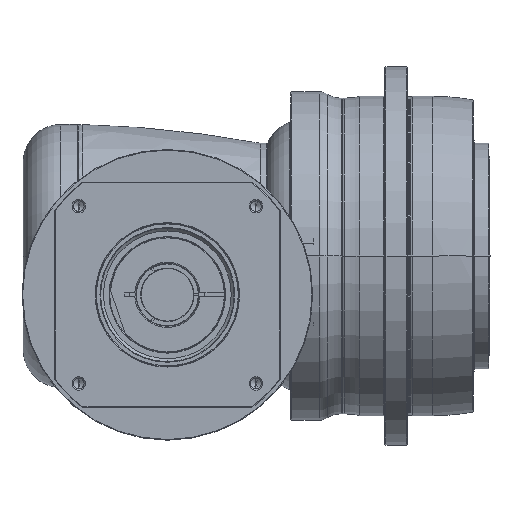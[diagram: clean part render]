
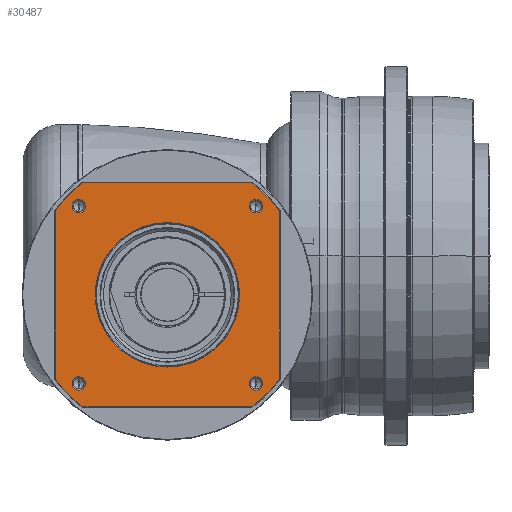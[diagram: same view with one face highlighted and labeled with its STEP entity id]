
A CAD part, front view. The second image highlights one B-rep face of the part: STEP entity #30487.
In plain terms, the highlighted planar face has unit normal (0, -1, 0) as drawn and (0, 0, 1) by its records, which use the part's own axes.
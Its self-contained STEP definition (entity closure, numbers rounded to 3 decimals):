
#29220=DIRECTION('',(1.,0.,0.));
#29221=VECTOR('',#29220,134.666);
#29222=CARTESIAN_POINT('',(-67.333,-89.5,41.));
#29223=LINE('',#29222,#29221);
#29233=CARTESIAN_POINT('',(0.,0.,
41.));
#29234=DIRECTION('',(0.,0.,-1.));
#29235=DIRECTION('',(0.,-1.,0.));
#29236=AXIS2_PLACEMENT_3D('',#29233,#29234,#29235);
#29238=CARTESIAN_POINT('',(0.,0.,
41.));
#29239=DIRECTION('',(0.,0.,-1.));
#29240=DIRECTION('',(0.,1.,0.));
#29241=AXIS2_PLACEMENT_3D('',#29238,#29239,#29240);
#29243=CARTESIAN_POINT('',(0.,0.,41.));
#29244=DIRECTION('',(0.,0.,1.));
#29245=DIRECTION('',(-0.799,-0.601,0.));
#29246=AXIS2_PLACEMENT_3D('',#29243,#29244,#29245);
#29258=DIRECTION('',(0.,-1.,0.));
#29259=VECTOR('',#29258,134.666);
#29260=CARTESIAN_POINT('',(-89.5,67.333,41.));
#29261=LINE('',#29260,#29259);
#29271=CARTESIAN_POINT('',(0.,0.,41.));
#29272=DIRECTION('',(0.,0.,1.));
#29273=DIRECTION('',(-0.601,0.799,0.));
#29274=AXIS2_PLACEMENT_3D('',#29271,#29272,#29273);
#29299=DIRECTION('',(-1.,0.,0.));
#29300=VECTOR('',#29299,134.666);
#29301=CARTESIAN_POINT('',(67.333,89.5,41.));
#29302=LINE('',#29301,#29300);
#29307=CARTESIAN_POINT('',(0.,0.,41.));
#29308=DIRECTION('',(0.,0.,1.));
#29309=DIRECTION('',(0.799,0.601,0.));
#29310=AXIS2_PLACEMENT_3D('',#29307,#29308,#29309);
#29322=DIRECTION('',(0.,1.,0.));
#29323=VECTOR('',#29322,134.666);
#29324=CARTESIAN_POINT('',(89.5,-67.333,41.));
#29325=LINE('',#29324,#29323);
#29427=CARTESIAN_POINT('',(0.,0.,41.));
#29428=DIRECTION('',(0.,0.,1.));
#29429=DIRECTION('',(0.601,-0.799,0.));
#29430=AXIS2_PLACEMENT_3D('',#29427,#29428,#29429);
#29704=CARTESIAN_POINT('',(-70.711,70.711,41.));
#29705=DIRECTION('',(0.,0.,1.));
#29706=DIRECTION('',(-1.,0.,0.));
#29707=AXIS2_PLACEMENT_3D('',#29704,#29705,#29706);
#29722=CARTESIAN_POINT('',(-70.711,70.711,41.));
#29723=DIRECTION('',(0.,0.,1.));
#29724=DIRECTION('',(1.,0.,0.));
#29725=AXIS2_PLACEMENT_3D('',#29722,#29723,#29724);
#29758=CARTESIAN_POINT('',(70.711,70.711,41.));
#29759=DIRECTION('',(0.,0.,1.));
#29760=DIRECTION('',(-1.,0.,0.));
#29761=AXIS2_PLACEMENT_3D('',#29758,#29759,#29760);
#29776=CARTESIAN_POINT('',(70.711,70.711,41.));
#29777=DIRECTION('',(0.,0.,1.));
#29778=DIRECTION('',(1.,0.,0.));
#29779=AXIS2_PLACEMENT_3D('',#29776,#29777,#29778);
#29812=CARTESIAN_POINT('',(70.711,-70.711,41.));
#29813=DIRECTION('',(0.,0.,1.));
#29814=DIRECTION('',(-1.,0.,0.));
#29815=AXIS2_PLACEMENT_3D('',#29812,#29813,#29814);
#29830=CARTESIAN_POINT('',(70.711,-70.711,41.));
#29831=DIRECTION('',(0.,0.,1.));
#29832=DIRECTION('',(1.,0.,0.));
#29833=AXIS2_PLACEMENT_3D('',#29830,#29831,#29832);
#29866=CARTESIAN_POINT('',(-70.711,-70.711,41.));
#29867=DIRECTION('',(0.,0.,1.));
#29868=DIRECTION('',(-1.,0.,0.));
#29869=AXIS2_PLACEMENT_3D('',#29866,#29867,#29868);
#29884=CARTESIAN_POINT('',(-70.711,-70.711,41.));
#29885=DIRECTION('',(0.,0.,1.));
#29886=DIRECTION('',(1.,0.,0.));
#29887=AXIS2_PLACEMENT_3D('',#29884,#29885,#29886);
#29928=CARTESIAN_POINT('',(89.5,-67.333,41.));
#29929=CARTESIAN_POINT('',(89.5,67.333,41.));
#29930=VERTEX_POINT('',#29928);
#29931=VERTEX_POINT('',#29929);
#29936=CARTESIAN_POINT('',(67.333,-89.5,41.));
#29937=VERTEX_POINT('',#29936);
#29940=CARTESIAN_POINT('',(-67.333,-89.5,41.));
#29941=VERTEX_POINT('',#29940);
#29944=CARTESIAN_POINT('',(-89.5,-67.333,41.));
#29945=VERTEX_POINT('',#29944);
#29948=CARTESIAN_POINT('',(-89.5,67.333,41.));
#29949=VERTEX_POINT('',#29948);
#29952=CARTESIAN_POINT('',(-67.333,89.5,41.));
#29953=VERTEX_POINT('',#29952);
#29956=CARTESIAN_POINT('',(67.333,89.5,41.));
#29957=VERTEX_POINT('',#29956);
#30006=CARTESIAN_POINT('',(-76.061,70.711,41.));
#30007=CARTESIAN_POINT('',(-65.361,70.711,41.));
#30008=VERTEX_POINT('',#30006);
#30009=VERTEX_POINT('',#30007);
#30040=CARTESIAN_POINT('',(76.061,70.711,41.));
#30041=CARTESIAN_POINT('',(65.361,70.711,41.));
#30042=VERTEX_POINT('',#30040);
#30043=VERTEX_POINT('',#30041);
#30048=CARTESIAN_POINT('',(76.061,-70.711,41.));
#30049=CARTESIAN_POINT('',(65.361,-70.711,41.));
#30050=VERTEX_POINT('',#30048);
#30051=VERTEX_POINT('',#30049);
#30056=CARTESIAN_POINT('',(-65.361,-70.711,41.));
#30057=CARTESIAN_POINT('',(-76.061,-70.711,41.));
#30058=VERTEX_POINT('',#30056);
#30059=VERTEX_POINT('',#30057);
#30064=CARTESIAN_POINT('',(0.,-57.65,41.));
#30065=CARTESIAN_POINT('',(0.,57.65,41.));
#30066=VERTEX_POINT('',#30064);
#30067=VERTEX_POINT('',#30065);
#30435=CARTESIAN_POINT('',(0.,0.,41.));
#30436=DIRECTION('',(0.,0.,1.));
#30437=DIRECTION('',(1.,0.,0.));
#30438=AXIS2_PLACEMENT_3D('',#30435,#30436,#30437);
#30439=PLANE('',#30438);
#30441=ORIENTED_EDGE('',*,*,#30440,.F.);
#30443=ORIENTED_EDGE('',*,*,#30442,.F.);
#30445=ORIENTED_EDGE('',*,*,#30444,.F.);
#30447=ORIENTED_EDGE('',*,*,#30446,.F.);
#30449=ORIENTED_EDGE('',*,*,#30448,.F.);
#30451=ORIENTED_EDGE('',*,*,#30450,.F.);
#30453=ORIENTED_EDGE('',*,*,#30452,.F.);
#30454=ORIENTED_EDGE('',*,*,#30425,.F.);
#30455=EDGE_LOOP('',(#30441,#30443,#30445,#30447,#30449,#30451,#30453,#30454));
#30456=FACE_OUTER_BOUND('',#30455,.F.);
#30458=ORIENTED_EDGE('',*,*,#30457,.F.);
#30460=ORIENTED_EDGE('',*,*,#30459,.F.);
#30461=EDGE_LOOP('',(#30458,#30460));
#30462=FACE_BOUND('',#30461,.F.);
#30464=ORIENTED_EDGE('',*,*,#30463,.T.);
#30466=ORIENTED_EDGE('',*,*,#30465,.T.);
#30467=EDGE_LOOP('',(#30464,#30466));
#30468=FACE_BOUND('',#30467,.F.);
#30470=ORIENTED_EDGE('',*,*,#30469,.T.);
#30472=ORIENTED_EDGE('',*,*,#30471,.T.);
#30473=EDGE_LOOP('',(#30470,#30472));
#30474=FACE_BOUND('',#30473,.F.);
#30476=ORIENTED_EDGE('',*,*,#30475,.T.);
#30478=ORIENTED_EDGE('',*,*,#30477,.T.);
#30479=EDGE_LOOP('',(#30476,#30478));
#30480=FACE_BOUND('',#30479,.F.);
#30482=ORIENTED_EDGE('',*,*,#30481,.T.);
#30484=ORIENTED_EDGE('',*,*,#30483,.T.);
#30485=EDGE_LOOP('',(#30482,#30484));
#30486=FACE_BOUND('',#30485,.F.);
#30487=ADVANCED_FACE('',(#30456,#30462,#30468,#30474,#30480,#30486),#30439,.T.);
#29237=CIRCLE('',#29236,57.65);
#29242=CIRCLE('',#29241,57.65);
#29247=CIRCLE('',#29246,112.);
#29275=CIRCLE('',#29274,112.);
#29311=CIRCLE('',#29310,112.);
#29431=CIRCLE('',#29430,112.);
#29708=CIRCLE('',#29707,5.35);
#29726=CIRCLE('',#29725,5.35);
#29762=CIRCLE('',#29761,5.35);
#29780=CIRCLE('',#29779,5.35);
#29816=CIRCLE('',#29815,5.35);
#29834=CIRCLE('',#29833,5.35);
#29870=CIRCLE('',#29869,5.35);
#29888=CIRCLE('',#29887,5.35);
#30425=EDGE_CURVE('',#29941,#29937,#29223,.T.);
#30440=EDGE_CURVE('',#29945,#29941,#29247,.T.);
#30442=EDGE_CURVE('',#29949,#29945,#29261,.T.);
#30444=EDGE_CURVE('',#29953,#29949,#29275,.T.);
#30446=EDGE_CURVE('',#29957,#29953,#29302,.T.);
#30448=EDGE_CURVE('',#29931,#29957,#29311,.T.);
#30450=EDGE_CURVE('',#29930,#29931,#29325,.T.);
#30452=EDGE_CURVE('',#29937,#29930,#29431,.T.);
#30457=EDGE_CURVE('',#30066,#30067,#29237,.T.);
#30459=EDGE_CURVE('',#30067,#30066,#29242,.T.);
#30463=EDGE_CURVE('',#30008,#30009,#29708,.T.);
#30465=EDGE_CURVE('',#30009,#30008,#29726,.T.);
#30469=EDGE_CURVE('',#30043,#30042,#29762,.T.);
#30471=EDGE_CURVE('',#30042,#30043,#29780,.T.);
#30475=EDGE_CURVE('',#30051,#30050,#29816,.T.);
#30477=EDGE_CURVE('',#30050,#30051,#29834,.T.);
#30481=EDGE_CURVE('',#30059,#30058,#29870,.T.);
#30483=EDGE_CURVE('',#30058,#30059,#29888,.T.);
